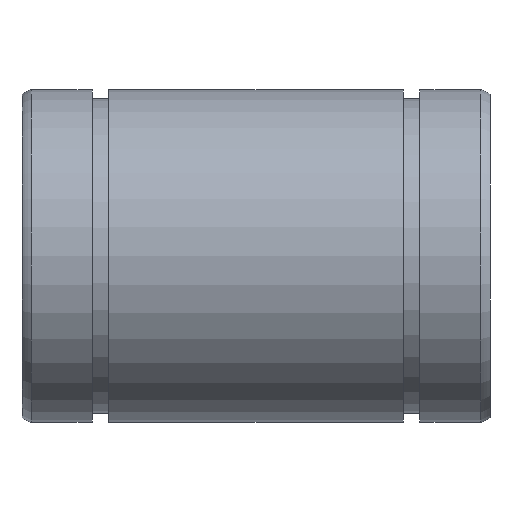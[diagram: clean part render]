
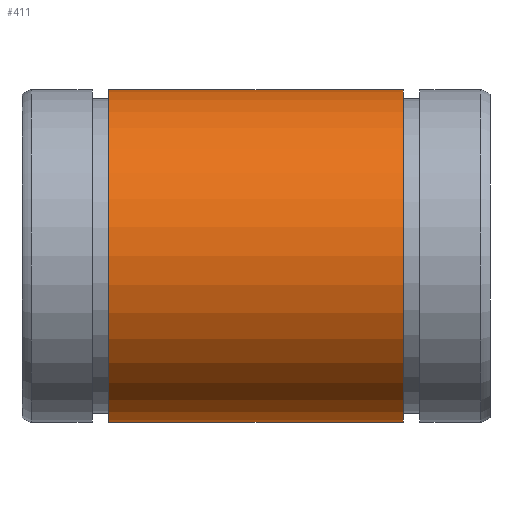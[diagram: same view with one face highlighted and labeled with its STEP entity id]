
A CAD part, top view. The second image highlights one B-rep face of the part: STEP entity #411.
In plain terms, the highlighted cylindrical face has radius 16 mm (diameter 32 mm), a partial arc.
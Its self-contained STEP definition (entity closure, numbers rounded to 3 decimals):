
#165=CARTESIAN_POINT('',(8.35,8.,-13.856));
#166=VERTEX_POINT('',#165);
#173=CARTESIAN_POINT('',(36.65,8.,-13.856));
#174=VERTEX_POINT('',#173);
#175=CARTESIAN_POINT('',(36.65,8.,-13.856));
#176=DIRECTION('',(-1.0,0.0,0.0));
#177=VECTOR('',#176,28.3);
#178=LINE('',#175,#177);
#179=EDGE_CURVE('',#174,#166,#178,.T.);
#221=CARTESIAN_POINT('',(36.65,-8.,-13.856));
#222=VERTEX_POINT('',#221);
#229=CARTESIAN_POINT('',(8.35,-8.,-13.856));
#230=VERTEX_POINT('',#229);
#231=CARTESIAN_POINT('',(8.35,-8.,-13.856));
#232=DIRECTION('',(1.0,0.0,0.0));
#233=VECTOR('',#232,28.3);
#234=LINE('',#231,#233);
#235=EDGE_CURVE('',#230,#222,#234,.T.);
#382=CARTESIAN_POINT('',(36.65,0.0,0.));
#383=DIRECTION('',(-1.0,0.0,0.0));
#384=DIRECTION('',(0.0,0.0,1.0));
#385=AXIS2_PLACEMENT_3D('',#382,#383,#384);
#386=CIRCLE('',#385,16.);
#387=EDGE_CURVE('',#222,#174,#386,.T.);
#394=CARTESIAN_POINT('',(22.5,0.0,0.));
#395=DIRECTION('',(-1.0,0.0,0.0));
#396=DIRECTION('',(0.0,0.0,1.0));
#397=AXIS2_PLACEMENT_3D('',#394,#395,#396);
#398=CYLINDRICAL_SURFACE('',#397,16.);
#399=ORIENTED_EDGE('',*,*,#179,.T.);
#400=CARTESIAN_POINT('',(8.35,0.0,0.));
#401=DIRECTION('',(-1.0,0.0,0.0));
#402=DIRECTION('',(0.0,0.0,1.0));
#403=AXIS2_PLACEMENT_3D('',#400,#401,#402);
#404=CIRCLE('',#403,16.0);
#405=EDGE_CURVE('',#230,#166,#404,.T.);
#406=ORIENTED_EDGE('',*,*,#405,.F.);
#407=ORIENTED_EDGE('',*,*,#235,.T.);
#408=ORIENTED_EDGE('',*,*,#387,.T.);
#409=EDGE_LOOP('',(#399,#406,#407,#408));
#410=FACE_OUTER_BOUND('',#409,.T.);
#411=ADVANCED_FACE('',(#410),#398,.T.);
